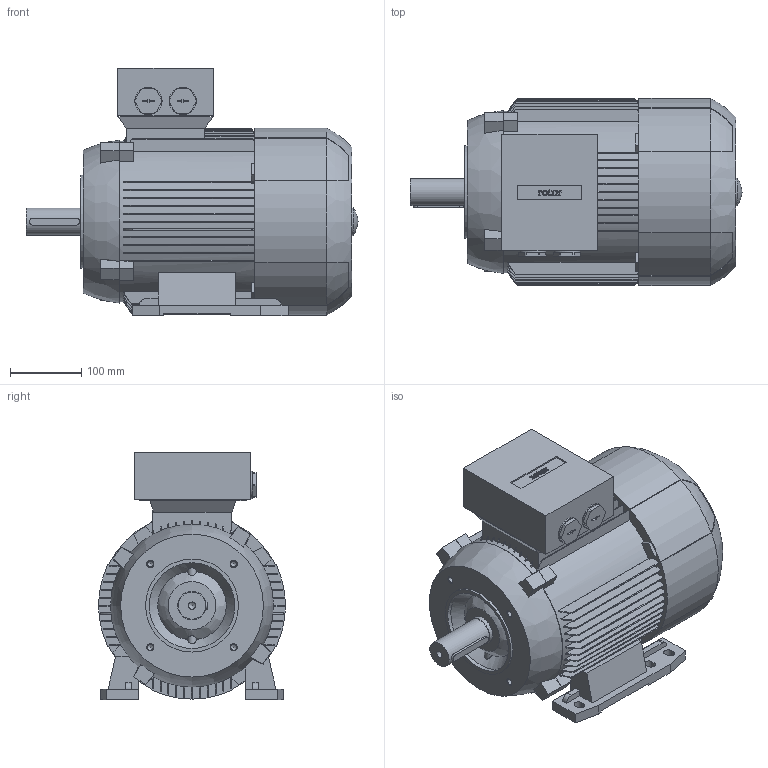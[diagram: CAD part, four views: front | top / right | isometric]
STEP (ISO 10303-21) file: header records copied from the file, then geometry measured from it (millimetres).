
FILE_DESCRIPTION (( 'STEP AP214' ), '1' );
FILE_NAME ('6RN132M06E32 IM2141-A_Rev.1A.STEP', '2018-01-11T14:51:37', ( 'rbc_ict' ), ( '' ), 'SwSTEP 2.0', 'SolidWorks 2015', '' );
FILE_SCHEMA (( 'AUTOMOTIVE_DESIGN' ));
Length unit declared in the file: millimetre
Products named in the file (1): 6RN132M06E32 IM2141-A_Rev.1A
Bounding box: 465 x 262 x 347 mm (x, y, z)
Volume: 19350024.2 mm3; surface area: 772736.2 mm2
Topology: 1 solids, 1 shells, 635 faces, 1808 edges, 1200 vertices
Faces by surface type: plane 375, bspline 144, cylinder 102, cone 14
Full cylindrical faces by diameter (mm): 8.37 x4, 8.38 x4, 10.2 x1, 38 x3, 39 x1, 40 x1, 120 x1, 130 x1
Entity records: 25039 total; most frequent: CARTESIAN_POINT 9651, ORIENTED_EDGE 3514, DIRECTION 2692, EDGE_CURVE 1757, VERTEX_POINT 1179, VECTOR 1032, LINE 1032, AXIS2_PLACEMENT_3D 830
